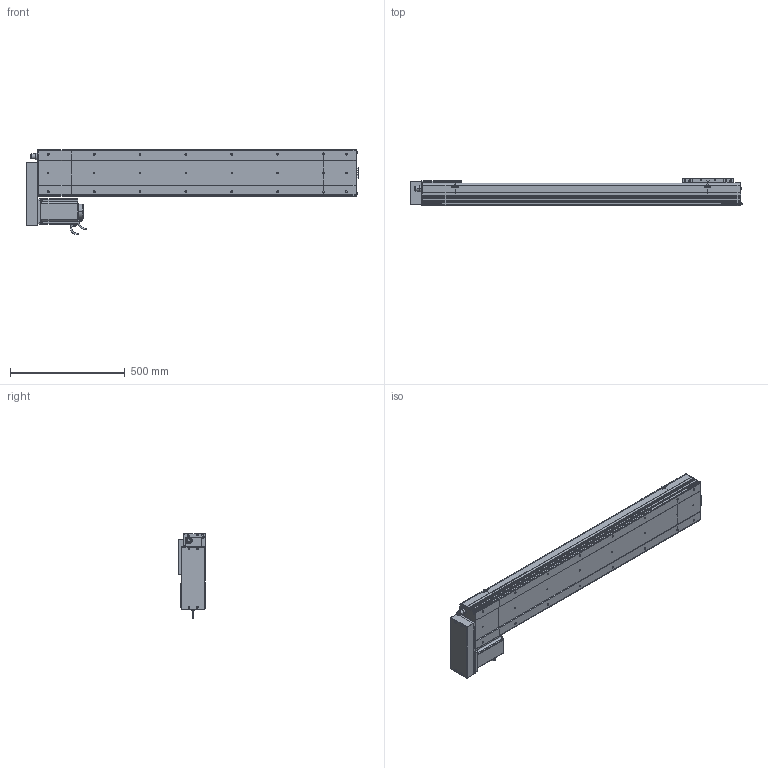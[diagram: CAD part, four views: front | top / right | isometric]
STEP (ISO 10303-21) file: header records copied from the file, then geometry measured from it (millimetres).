
FILE_DESCRIPTION (( 'STEP AP214' ), '1' );
FILE_NAME ('D20 CSH BR S1100.STEP', '2010-06-30T08:17:34', ( 'Conseil Régional Haute-Normandie' ), ( 'Conseil Régional Haute-Normandie' ), 'SwSTEP 2.0', 'SolidWorks 2010', '' );
FILE_SCHEMA (( 'AUTOMOTIVE_DESIGN' ));
Length unit declared in the file: millimetre
Products named in the file (31): Corp Head BR D20_Default; Couvercle Head BR_Default; Plaque De Serrage Head BR D20_Default; Cache Moteur BR D20_Default; ecrou_Default; vis M5 L15_Default; vis M5 L47_Default; vis M5 L30_Default; clavette; Conecteur_Default; Conecteur2_Default; codeur 110BLDC170A-630x; corps 110BLDC170A-630x; avant 110BLDC170A-630x; Moteur motionking 110BLDC170A-640x; Couvercle_Default; Corp Tail D20+100_Default; Tail D20+100_Default; D20 CSH BR S1100; Corp D20 S1100_Default; Plaque De Serrage D20_Default; Plaque de Bout Tail D20_Default; Chariot D20_Default; Couvercle S1100_Default; Corp S1100_Default; Glissiere_Default; Support Chariot D20_Default; Support moteur BR D20_Default; Plaque de Bout Head BR D20_Default; Head D20 BR_Default
Assembly tree (60 placements, depth 4):
  D20 CSH BR S1100
    Chariot D20_Default
      vis M5 L15_Default  x8
      Chariot D20_Default
      Glissiere_Default
      Support Chariot D20_Default
    Head D20 BR_Default
      vis M5 L30_Default  x4
      Cache Moteur BR D20_Default
      vis M5 L15_Default  x8
      vis M5 L47_Default  x4
      Couvercle Head BR_Default
      Support moteur BR D20_Default
      ecrou_Default  x4
      Corp Head BR D20_Default
      Plaque De Serrage Head BR D20_Default
      Moteur motionking 110BLDC170A-640x
        clavette
        Conecteur2_Default
        avant 110BLDC170A-630x
        Conecteur_Default
        corps 110BLDC170A-630x
        codeur 110BLDC170A-630x
      Plaque de Bout Head BR D20_Default
    Corp D20 S1100_Default
      Couvercle S1100_Default
      Corp S1100_Default
    Tail D20+100_Default
      Plaque De Serrage D20_Default
      vis M5 L15_Default  x6
      Plaque de Bout Tail D20_Default
      Couvercle_Default
      Corp Tail D20+100_Default
Bounding box: 1447.7 x 120 x 372 mm (x, y, z)
Volume: 11807944.8 mm3; surface area: 2239432.3 mm2
Topology: 97 solids, 97 shells, 3577 faces, 8987 edges, 5853 vertices
Faces by surface type: plane 2012, bspline 806, cylinder 613, torus 83, cone 63
Entity records: 157169 total; most frequent: CARTESIAN_POINT 81921, ORIENTED_EDGE 14922, DIRECTION 11175, EDGE_CURVE 7461, VERTEX_POINT 4941, LINE 4889, VECTOR 4889, EDGE_LOOP 3180
